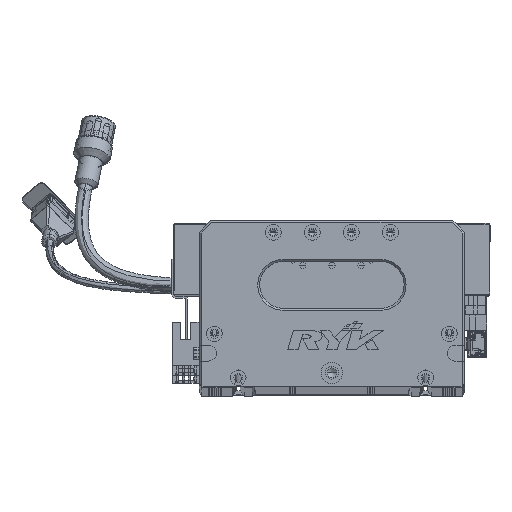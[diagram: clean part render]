
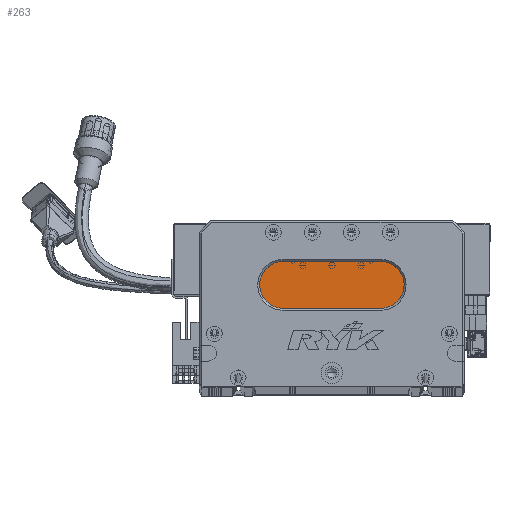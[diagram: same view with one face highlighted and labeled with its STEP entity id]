
A CAD part, top view. The second image highlights one B-rep face of the part: STEP entity #263.
In plain terms, the highlighted planar face has unit normal (0, 0, 1) as drawn and (0, 0, -1) by its records, which use the part's own axes.
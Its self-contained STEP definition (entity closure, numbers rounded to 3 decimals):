
#263 = ADVANCED_FACE ( 'NONE', ( #36017 ), #3404, .T. ) ;
#2865 = CARTESIAN_POINT ( 'NONE',  ( 93., 64., 13. ) ) ;
#3100 = DIRECTION ( 'NONE',  ( 0., 0., -1. ) ) ;
#3404 = PLANE ( 'NONE',  #87987 ) ;
#5187 = DIRECTION ( 'NONE',  ( 0., 0., -1. ) ) ;
#5276 = DIRECTION ( 'NONE',  ( -1., 0., 0. ) ) ;
#8345 = ORIENTED_EDGE ( 'NONE', *, *, #72117, .T. ) ;
#15326 = DIRECTION ( 'NONE',  ( -1., 0., 0. ) ) ;
#15366 = VERTEX_POINT ( 'NONE', #95197 ) ;
#30192 = CARTESIAN_POINT ( 'NONE',  ( 43., 64., 13. ) ) ;
#30918 = EDGE_LOOP ( 'NONE', ( #8345, #109057, #70164, #46300, #65318 ) ) ;
#31881 = EDGE_CURVE ( 'NONE', #35573, #15366, #130444, .T. ) ;
#35573 = VERTEX_POINT ( 'NONE', #93355 ) ;
#36017 = FACE_OUTER_BOUND ( 'NONE', #30918, .T. ) ;
#38859 = CARTESIAN_POINT ( 'NONE',  ( 43., 52., 13. ) ) ;
#40157 = CARTESIAN_POINT ( 'NONE',  ( 93., 52., 13. ) ) ;
#45002 = CARTESIAN_POINT ( 'NONE',  ( 31., 52., 13. ) ) ;
#46300 = ORIENTED_EDGE ( 'NONE', *, *, #76120, .T. ) ;
#49926 = LINE ( 'NONE', #61454, #105108 ) ;
#52944 = AXIS2_PLACEMENT_3D ( 'NONE', #65630, #5187, #15326 ) ;
#54074 = AXIS2_PLACEMENT_3D ( 'NONE', #92149, #90849, #121723 ) ;
#56293 = VERTEX_POINT ( 'NONE', #45002 ) ;
#58437 = VERTEX_POINT ( 'NONE', #2865 ) ;
#61454 = CARTESIAN_POINT ( 'NONE',  ( 93., 64., 13. ) ) ;
#65318 = ORIENTED_EDGE ( 'NONE', *, *, #95691, .T. ) ;
#65630 = CARTESIAN_POINT ( 'NONE',  ( 93., 52., 13. ) ) ;
#67597 = DIRECTION ( 'NONE',  ( -1., 0., 0. ) ) ;
#70164 = ORIENTED_EDGE ( 'NONE', *, *, #81305, .T. ) ;
#71003 = DIRECTION ( 'NONE',  ( -1., 0., 0. ) ) ;
#72117 = EDGE_CURVE ( 'NONE', #58437, #35573, #96616, .T. ) ;
#76120 = EDGE_CURVE ( 'NONE', #56293, #82541, #95213, .T. ) ;
#81305 = EDGE_CURVE ( 'NONE', #15366, #56293, #98782, .T. ) ;
#82541 = VERTEX_POINT ( 'NONE', #30192 ) ;
#87928 = VECTOR ( 'NONE', #71003, 1000. ) ;
#87987 = AXIS2_PLACEMENT_3D ( 'NONE', #40157, #3100, #5276 ) ;
#89965 = CARTESIAN_POINT ( 'NONE',  ( 93., 40., 13. ) ) ;
#90849 = DIRECTION ( 'NONE',  ( 0., 0., -1. ) ) ;
#91918 = DIRECTION ( 'NONE',  ( 1., 0., 0. ) ) ;
#92149 = CARTESIAN_POINT ( 'NONE',  ( 43., 52., 13. ) ) ;
#93355 = CARTESIAN_POINT ( 'NONE',  ( 93., 40., 13. ) ) ;
#94327 = AXIS2_PLACEMENT_3D ( 'NONE', #38859, #129772, #67597 ) ;
#95197 = CARTESIAN_POINT ( 'NONE',  ( 43., 40., 13. ) ) ;
#95213 = CIRCLE ( 'NONE', #54074, 12. ) ;
#95691 = EDGE_CURVE ( 'NONE', #82541, #58437, #49926, .T. ) ;
#96616 = CIRCLE ( 'NONE', #52944, 12. ) ;
#98782 = CIRCLE ( 'NONE', #94327, 12. ) ;
#105108 = VECTOR ( 'NONE', #91918, 1000. ) ;
#109057 = ORIENTED_EDGE ( 'NONE', *, *, #31881, .T. ) ;
#121723 = DIRECTION ( 'NONE',  ( -1., 0., 0. ) ) ;
#129772 = DIRECTION ( 'NONE',  ( 0., 0., -1. ) ) ;
#130444 = LINE ( 'NONE', #89965, #87928 ) ;
